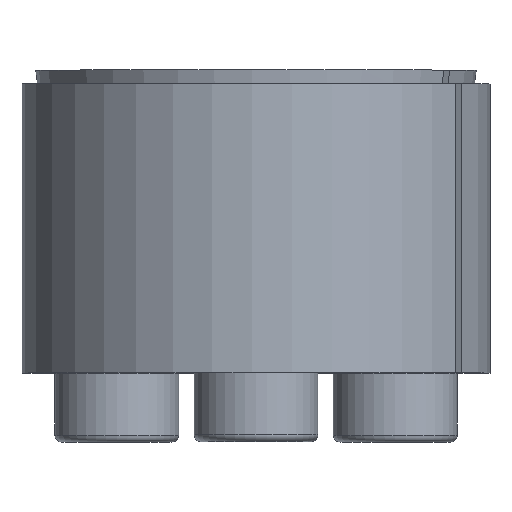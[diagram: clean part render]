
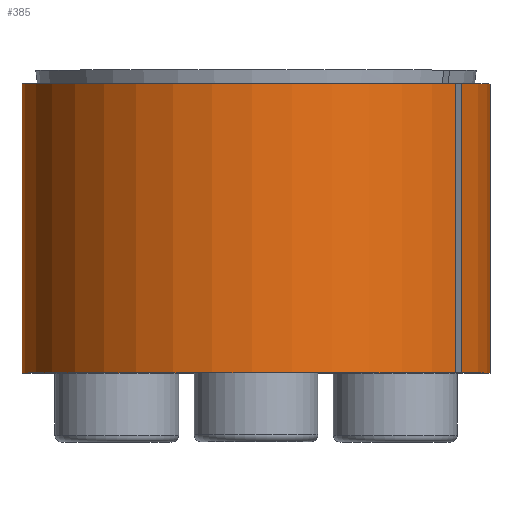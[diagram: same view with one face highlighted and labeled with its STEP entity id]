
A CAD part, top view. The second image highlights one B-rep face of the part: STEP entity #385.
In plain terms, the highlighted cylindrical face has radius 8.5 mm (diameter 17 mm), a partial arc.
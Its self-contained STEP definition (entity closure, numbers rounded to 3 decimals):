
#385 = ADVANCED_FACE( '', ( #635 ), #636, .T. );
#635 = FACE_OUTER_BOUND( '', #852, .T. );
#636 = CYLINDRICAL_SURFACE( '', #853, 8.5 );
#852 = EDGE_LOOP( '', ( #1138, #1139, #1140, #1141 ) );
#853 = AXIS2_PLACEMENT_3D( '', #1142, #1143, #1144 );
#1138 = ORIENTED_EDGE( '', *, *, #1610, .T. );
#1139 = ORIENTED_EDGE( '', *, *, #1614, .T. );
#1140 = ORIENTED_EDGE( '', *, *, #1605, .T. );
#1141 = ORIENTED_EDGE( '', *, *, #1596, .T. );
#1142 = CARTESIAN_POINT( '', ( 0., -60., 0. ) );
#1143 = DIRECTION( '', ( 0., -1., 0. ) );
#1144 = DIRECTION( '', ( 0., 0., 1. ) );
#1596 = EDGE_CURVE( '', #1770, #1768, #1771, .T. );
#1605 = EDGE_CURVE( '', #1786, #1770, #1787, .T. );
#1610 = EDGE_CURVE( '', #1768, #1792, #1794, .T. );
#1614 = EDGE_CURVE( '', #1792, #1786, #1799, .F. );
#1768 = VERTEX_POINT( '', #1943 );
#1770 = VERTEX_POINT( '', #1946 );
#1771 = LINE( '', #1947, #1948 );
#1786 = VERTEX_POINT( '', #1970 );
#1787 = CIRCLE( '', #1971, 8.5 );
#1792 = VERTEX_POINT( '', #1980 );
#1794 = CIRCLE( '', #1983, 8.5 );
#1799 = LINE( '', #1990, #1991 );
#1943 = CARTESIAN_POINT( '', ( 7.253, 5., 4.433 ) );
#1946 = CARTESIAN_POINT( '', ( 7.253, -5.5, 4.433 ) );
#1947 = CARTESIAN_POINT( '', ( 7.253, -60., 4.433 ) );
#1948 = VECTOR( '', #2220, 1000. );
#1970 = CARTESIAN_POINT( '', ( 7.465, -5.5, 4.065 ) );
#1971 = AXIS2_PLACEMENT_3D( '', #2237, #2238, #2239 );
#1980 = CARTESIAN_POINT( '', ( 7.465, 5., 4.065 ) );
#1983 = AXIS2_PLACEMENT_3D( '', #2245, #2246, #2247 );
#1990 = CARTESIAN_POINT( '', ( 7.465, -60., 4.065 ) );
#1991 = VECTOR( '', #2253, 1000. );
#2220 = DIRECTION( '', ( 0., 1., 0. ) );
#2237 = CARTESIAN_POINT( '', ( 0., -5.5, 0. ) );
#2238 = DIRECTION( '', ( 0., 1., 0. ) );
#2239 = DIRECTION( '', ( 0., 0., 1. ) );
#2245 = CARTESIAN_POINT( '', ( 0., 5., 0. ) );
#2246 = DIRECTION( '', ( 0., -1., 0. ) );
#2247 = DIRECTION( '', ( 0., 0., -1. ) );
#2253 = DIRECTION( '', ( 0., 1., 0. ) );
